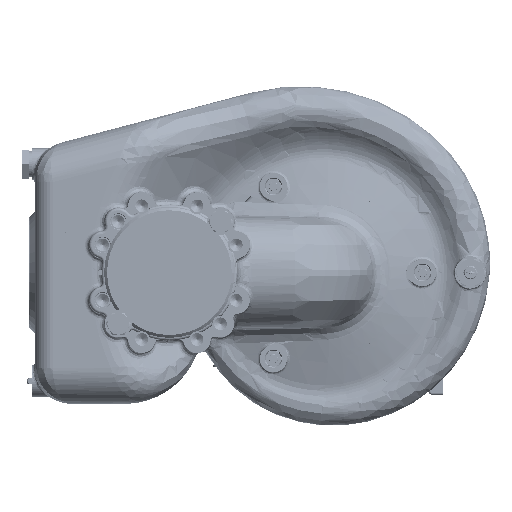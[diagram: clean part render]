
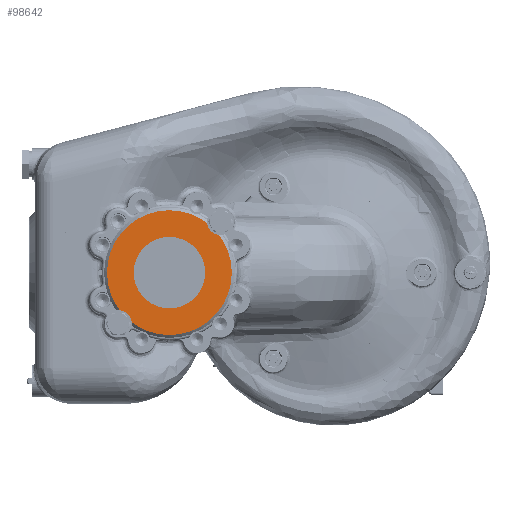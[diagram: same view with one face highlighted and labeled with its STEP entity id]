
A CAD part, left-side view. The second image highlights one B-rep face of the part: STEP entity #98642.
In plain terms, the highlighted planar face has unit normal (-1, 0, 0).
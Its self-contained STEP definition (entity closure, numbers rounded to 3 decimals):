
#93829=CARTESIAN_POINT('',(2.,0.,0.));
#93830=DIRECTION('',(1.,0.,0.));
#93831=DIRECTION('',(0.,1.,0.));
#93832=AXIS2_PLACEMENT_3D('',#93829,#93830,#93831);
#93979=CARTESIAN_POINT('',(2.,0.,0.));
#93980=DIRECTION('',(-1.,0.,0.));
#93981=DIRECTION('',(0.,0.,-1.));
#93982=AXIS2_PLACEMENT_3D('',#93979,#93980,#93981);
#93984=CARTESIAN_POINT('',(2.,0.,0.));
#93985=DIRECTION('',(1.,0.,0.));
#93986=DIRECTION('',(0.,0.,-1.));
#93987=AXIS2_PLACEMENT_3D('',#93984,#93985,#93986);
#95420=CARTESIAN_POINT('',(2.,0.,0.));
#95421=DIRECTION('',(1.,0.,0.));
#95422=DIRECTION('',(0.,-1.,0.));
#95423=AXIS2_PLACEMENT_3D('',#95420,#95421,#95422);
#97935=CARTESIAN_POINT('',(2.,0.,-39.5));
#97936=CARTESIAN_POINT('',(2.,0.,39.5));
#97937=VERTEX_POINT('',#97935);
#97938=VERTEX_POINT('',#97936);
#97939=CARTESIAN_POINT('',(2.,69.,0.));
#97940=CARTESIAN_POINT('',(2.,-69.,0.));
#97941=VERTEX_POINT('',#97939);
#97942=VERTEX_POINT('',#97940);
#98626=CARTESIAN_POINT('',(2.,0.,0.));
#98627=DIRECTION('',(1.,0.,0.));
#98628=DIRECTION('',(0.,0.,1.));
#98629=AXIS2_PLACEMENT_3D('',#98626,#98627,#98628);
#98630=PLANE('',#98629);
#98631=ORIENTED_EDGE('',*,*,#98571,.T.);
#98633=ORIENTED_EDGE('',*,*,#98632,.T.);
#98634=EDGE_LOOP('',(#98631,#98633));
#98635=FACE_OUTER_BOUND('',#98634,.F.);
#98637=ORIENTED_EDGE('',*,*,#98636,.T.);
#98639=ORIENTED_EDGE('',*,*,#98638,.F.);
#98640=EDGE_LOOP('',(#98637,#98639));
#98641=FACE_BOUND('',#98640,.F.);
#98642=ADVANCED_FACE('',(#98635,#98641),#98630,.F.);
#93833=CIRCLE('',#93832,69.);
#93983=CIRCLE('',#93982,39.5);
#93988=CIRCLE('',#93987,39.5);
#95424=CIRCLE('',#95423,69.);
#98571=EDGE_CURVE('',#97941,#97942,#93833,.T.);
#98632=EDGE_CURVE('',#97942,#97941,#95424,.T.);
#98636=EDGE_CURVE('',#97937,#97938,#93983,.T.);
#98638=EDGE_CURVE('',#97937,#97938,#93988,.T.);
